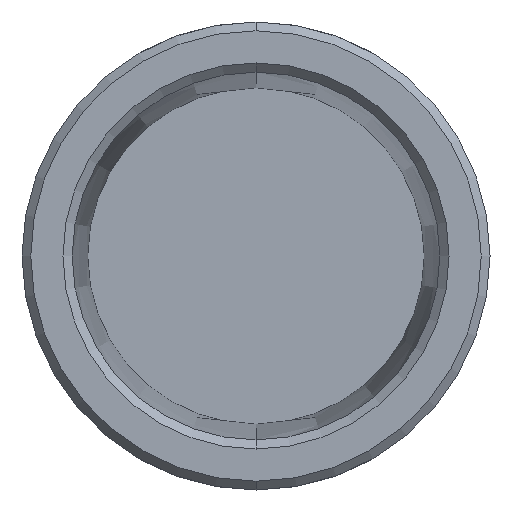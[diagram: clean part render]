
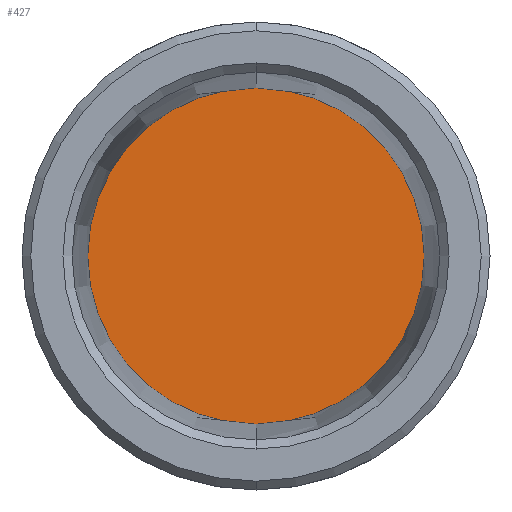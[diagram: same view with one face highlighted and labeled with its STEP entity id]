
A CAD part, front view. The second image highlights one B-rep face of the part: STEP entity #427.
In plain terms, the highlighted planar face has unit normal (0, -1, 0).
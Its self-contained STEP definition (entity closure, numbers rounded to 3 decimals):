
#26 = DIRECTION ( 'NONE',  ( 0., -1., 0. ) ) ;
#32 = CARTESIAN_POINT ( 'NONE',  ( 0., 11., 0. ) ) ;
#53 = VERTEX_POINT ( 'NONE', #465 ) ;
#61 = FACE_OUTER_BOUND ( 'NONE', #369, .T. ) ;
#77 = VERTEX_POINT ( 'NONE', #530 ) ;
#78 = EDGE_CURVE ( 'NONE', #53, #77, #216, .T. ) ;
#86 = DIRECTION ( 'NONE',  ( 0., 0., -1. ) ) ;
#106 = AXIS2_PLACEMENT_3D ( 'NONE', #419, #244, #238 ) ;
#132 = CARTESIAN_POINT ( 'NONE',  ( 0., 11., 0. ) ) ;
#139 = DIRECTION ( 'NONE',  ( 0., 0., -1. ) ) ;
#201 = PLANE ( 'NONE',  #550 ) ;
#216 = CIRCLE ( 'NONE', #106, 5.75 ) ;
#238 = DIRECTION ( 'NONE',  ( 0., 0., -1. ) ) ;
#244 = DIRECTION ( 'NONE',  ( 0., -1., 0. ) ) ;
#369 = EDGE_LOOP ( 'NONE', ( #610, #619 ) ) ;
#419 = CARTESIAN_POINT ( 'NONE',  ( 0., 11., 0. ) ) ;
#427 = ADVANCED_FACE ( 'NONE', ( #61 ), #201, .T. ) ;
#465 = CARTESIAN_POINT ( 'NONE',  ( 0., 11., 5.75 ) ) ;
#530 = CARTESIAN_POINT ( 'NONE',  ( 0., 11., -5.75 ) ) ;
#550 = AXIS2_PLACEMENT_3D ( 'NONE', #132, #26, #139 ) ;
#591 = EDGE_CURVE ( 'NONE', #77, #53, #689, .T. ) ;
#610 = ORIENTED_EDGE ( 'NONE', *, *, #591, .T. ) ;
#613 = DIRECTION ( 'NONE',  ( 0., -1., 0. ) ) ;
#619 = ORIENTED_EDGE ( 'NONE', *, *, #78, .T. ) ;
#689 = CIRCLE ( 'NONE', #691, 5.75 ) ;
#691 = AXIS2_PLACEMENT_3D ( 'NONE', #32, #613, #86 ) ;
